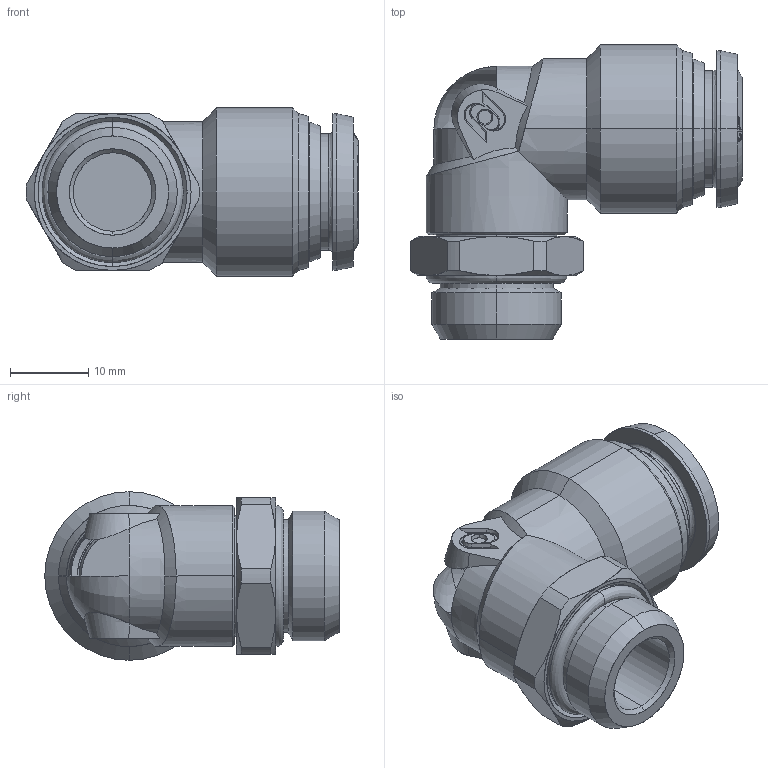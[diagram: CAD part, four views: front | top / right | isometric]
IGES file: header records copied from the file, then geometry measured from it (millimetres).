
Start section: SolidWorks IGES file using analytic representation for surfaces
Global section: file name: K:\Disegni Esecutivi\Serie 50000\ASSIEMI_50000\50116\ASSIEMI_PIENI_50116\5011600017.IGS; native system: SolidWorks 2008; preprocessor: SolidWorks 2008; author: cad02; date: 080521.104731; units: millimetre
Bounding box: 42.35 x 37.55 x 21.5 mm (x, y, z)
Surface area: 5586.6 mm2 (no closed solid volume)
Topology: 0 solids, 0 shells, 228 faces, 2784 edges, 2782 vertices
Faces by surface type: bspline 125, revolution 103
